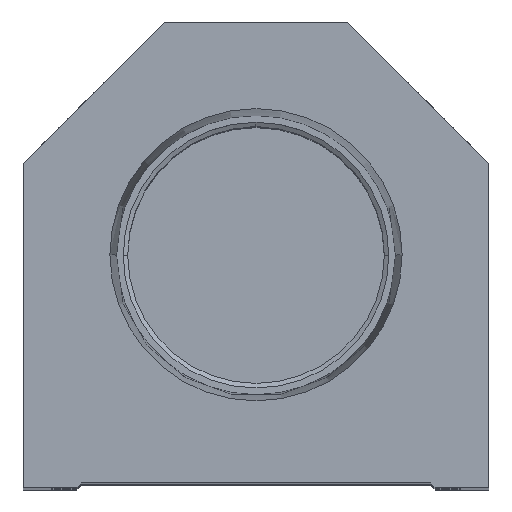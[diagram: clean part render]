
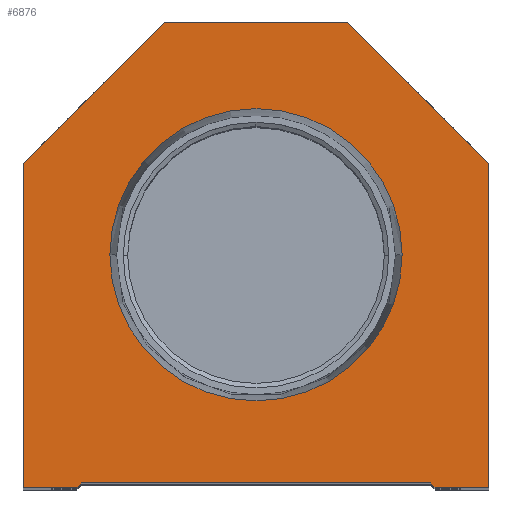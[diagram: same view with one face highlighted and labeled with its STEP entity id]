
A CAD part, top view. The second image highlights one B-rep face of the part: STEP entity #6876.
In plain terms, the highlighted planar face has unit normal (0, 0, 1).
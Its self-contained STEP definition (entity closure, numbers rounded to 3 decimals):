
#495 = CARTESIAN_POINT ( 'NONE',  ( 0., 25.4, 0. ) ) ;
#610 = VERTEX_POINT ( 'NONE', #6217 ) ;
#673 = EDGE_CURVE ( 'NONE', #5809, #9085, #1294, .T. ) ;
#707 = DIRECTION ( 'NONE',  ( 0., 0., 1. ) ) ;
#810 = CARTESIAN_POINT ( 'NONE',  ( 25.4, 35.4, 0. ) ) ;
#877 = VECTOR ( 'NONE', #12538, 1000. ) ;
#931 = ORIENTED_EDGE ( 'NONE', *, *, #8647, .T. ) ;
#1294 = LINE ( 'NONE', #2803, #4337 ) ;
#1538 = CARTESIAN_POINT ( 'NONE',  ( -9.775, 9.775, 0. ) ) ;
#1699 = VECTOR ( 'NONE', #2983, 1000. ) ;
#1831 = CARTESIAN_POINT ( 'NONE',  ( -15.947, 25.4, 0. ) ) ;
#1900 = EDGE_CURVE ( 'NONE', #7041, #7922, #16558, .T. ) ;
#2033 = VERTEX_POINT ( 'NONE', #9193 ) ;
#2061 = VECTOR ( 'NONE', #16231, 1000. ) ;
#2235 = DIRECTION ( 'NONE',  ( -0.707, -0.707, 0. ) ) ;
#2477 = CARTESIAN_POINT ( 'NONE',  ( 10., 50.8, 0. ) ) ;
#2612 = ORIENTED_EDGE ( 'NONE', *, *, #6174, .T. ) ;
#2741 = VERTEX_POINT ( 'NONE', #13411 ) ;
#2803 = CARTESIAN_POINT ( 'NONE',  ( -25.4, 0., 0. ) ) ;
#2983 = DIRECTION ( 'NONE',  ( 1., 0., 0. ) ) ;
#3158 = EDGE_LOOP ( 'NONE', ( #2612, #10329, #15883, #12829, #931, #10503, #9808, #13256, #15090, #12079 ) ) ;
#3340 = EDGE_CURVE ( 'NONE', #2741, #7761, #18705, .T. ) ;
#3825 = CARTESIAN_POINT ( 'NONE',  ( 15.947, 25.4, 0. ) ) ;
#4337 = VECTOR ( 'NONE', #5801, 1000. ) ;
#4660 = ORIENTED_EDGE ( 'NONE', *, *, #14780, .F. ) ;
#4679 = PLANE ( 'NONE',  #9253 ) ;
#4839 = LINE ( 'NONE', #1538, #14746 ) ;
#5009 = LINE ( 'NONE', #7926, #2061 ) ;
#5801 = DIRECTION ( 'NONE',  ( 0., -1., 0. ) ) ;
#5809 = VERTEX_POINT ( 'NONE', #8284 ) ;
#5822 = DIRECTION ( 'NONE',  ( 0., 1., 0. ) ) ;
#6174 = EDGE_CURVE ( 'NONE', #9085, #2033, #11333, .T. ) ;
#6201 = EDGE_CURVE ( 'NONE', #9581, #13360, #5009, .T. ) ;
#6217 = CARTESIAN_POINT ( 'NONE',  ( 25.4, 35.4, 0. ) ) ;
#6437 = DIRECTION ( 'NONE',  ( 0.707, -0.707, 0. ) ) ;
#6876 = ADVANCED_FACE ( 'NONE', ( #17699, #21073 ), #4679, .T. ) ;
#6877 = DIRECTION ( 'NONE',  ( 0., 0., 1. ) ) ;
#7041 = VERTEX_POINT ( 'NONE', #3825 ) ;
#7761 = VERTEX_POINT ( 'NONE', #10535 ) ;
#7922 = VERTEX_POINT ( 'NONE', #1831 ) ;
#7926 = CARTESIAN_POINT ( 'NONE',  ( -19.05, 0.5, 0. ) ) ;
#7930 = DIRECTION ( 'NONE',  ( 0., 0., 1. ) ) ;
#8089 = DIRECTION ( 'NONE',  ( 0.707, 0.707, 0. ) ) ;
#8168 = LINE ( 'NONE', #12870, #15259 ) ;
#8284 = CARTESIAN_POINT ( 'NONE',  ( -25.4, 35.4, 0. ) ) ;
#8647 = EDGE_CURVE ( 'NONE', #9256, #15874, #20400, .T. ) ;
#8779 = CARTESIAN_POINT ( 'NONE',  ( -25.4, 0., 0. ) ) ;
#9085 = VERTEX_POINT ( 'NONE', #8779 ) ;
#9193 = CARTESIAN_POINT ( 'NONE',  ( -19.55, 0., 0. ) ) ;
#9253 = AXIS2_PLACEMENT_3D ( 'NONE', #16236, #7930, #14427 ) ;
#9256 = VERTEX_POINT ( 'NONE', #10695 ) ;
#9502 = EDGE_LOOP ( 'NONE', ( #15404, #4660 ) ) ;
#9581 = VERTEX_POINT ( 'NONE', #20817 ) ;
#9726 = AXIS2_PLACEMENT_3D ( 'NONE', #13835, #6877, #20288 ) ;
#9808 = ORIENTED_EDGE ( 'NONE', *, *, #18213, .T. ) ;
#10329 = ORIENTED_EDGE ( 'NONE', *, *, #12346, .T. ) ;
#10370 = CARTESIAN_POINT ( 'NONE',  ( -25.4, 35.4, 0. ) ) ;
#10503 = ORIENTED_EDGE ( 'NONE', *, *, #12521, .T. ) ;
#10535 = CARTESIAN_POINT ( 'NONE',  ( -10., 50.8, 0. ) ) ;
#10695 = CARTESIAN_POINT ( 'NONE',  ( 19.55, 0., 0. ) ) ;
#10768 = DIRECTION ( 'NONE',  ( -0.707, 0.707, 0. ) ) ;
#11333 = LINE ( 'NONE', #17602, #1699 ) ;
#11969 = EDGE_CURVE ( 'NONE', #7761, #5809, #12085, .T. ) ;
#12079 = ORIENTED_EDGE ( 'NONE', *, *, #673, .T. ) ;
#12085 = LINE ( 'NONE', #10370, #16443 ) ;
#12148 = DIRECTION ( 'NONE',  ( 1., 0., 0. ) ) ;
#12346 = EDGE_CURVE ( 'NONE', #2033, #9581, #4839, .T. ) ;
#12521 = EDGE_CURVE ( 'NONE', #15874, #610, #18935, .T. ) ;
#12538 = DIRECTION ( 'NONE',  ( -1., 0., 0. ) ) ;
#12829 = ORIENTED_EDGE ( 'NONE', *, *, #17144, .T. ) ;
#12870 = CARTESIAN_POINT ( 'NONE',  ( 9.775, 9.775, 0. ) ) ;
#13256 = ORIENTED_EDGE ( 'NONE', *, *, #3340, .T. ) ;
#13360 = VERTEX_POINT ( 'NONE', #18910 ) ;
#13411 = CARTESIAN_POINT ( 'NONE',  ( 10., 50.8, 0. ) ) ;
#13573 = DIRECTION ( 'NONE',  ( 1., 0., 0. ) ) ;
#13835 = CARTESIAN_POINT ( 'NONE',  ( 0., 25.4, 0. ) ) ;
#14338 = AXIS2_PLACEMENT_3D ( 'NONE', #495, #707, #13573 ) ;
#14427 = DIRECTION ( 'NONE',  ( 1., 0., 0. ) ) ;
#14746 = VECTOR ( 'NONE', #8089, 1000. ) ;
#14780 = EDGE_CURVE ( 'NONE', #7922, #7041, #20758, .T. ) ;
#15090 = ORIENTED_EDGE ( 'NONE', *, *, #11969, .T. ) ;
#15259 = VECTOR ( 'NONE', #6437, 1000. ) ;
#15404 = ORIENTED_EDGE ( 'NONE', *, *, #1900, .F. ) ;
#15874 = VERTEX_POINT ( 'NONE', #17736 ) ;
#15883 = ORIENTED_EDGE ( 'NONE', *, *, #6201, .T. ) ;
#16231 = DIRECTION ( 'NONE',  ( 1., 0., 0. ) ) ;
#16236 = CARTESIAN_POINT ( 'NONE',  ( 0., 0., 0. ) ) ;
#16443 = VECTOR ( 'NONE', #2235, 1000. ) ;
#16558 = CIRCLE ( 'NONE', #9726, 15.947 ) ;
#16819 = VECTOR ( 'NONE', #5822, 1000. ) ;
#17044 = CARTESIAN_POINT ( 'NONE',  ( 25.4, 0., 0. ) ) ;
#17144 = EDGE_CURVE ( 'NONE', #13360, #9256, #8168, .T. ) ;
#17602 = CARTESIAN_POINT ( 'NONE',  ( -19.05, 0., 0. ) ) ;
#17699 = FACE_BOUND ( 'NONE', #9502, .T. ) ;
#17736 = CARTESIAN_POINT ( 'NONE',  ( 25.4, 0., 0. ) ) ;
#18213 = EDGE_CURVE ( 'NONE', #610, #2741, #18748, .T. ) ;
#18233 = VECTOR ( 'NONE', #12148, 1000. ) ;
#18705 = LINE ( 'NONE', #2477, #877 ) ;
#18748 = LINE ( 'NONE', #810, #20015 ) ;
#18910 = CARTESIAN_POINT ( 'NONE',  ( 19.05, 0.5, 0. ) ) ;
#18935 = LINE ( 'NONE', #17044, #16819 ) ;
#20015 = VECTOR ( 'NONE', #10768, 1000. ) ;
#20288 = DIRECTION ( 'NONE',  ( 1., 0., 0. ) ) ;
#20400 = LINE ( 'NONE', #20505, #18233 ) ;
#20505 = CARTESIAN_POINT ( 'NONE',  ( 19.05, 0., 0. ) ) ;
#20758 = CIRCLE ( 'NONE', #14338, 15.947 ) ;
#20817 = CARTESIAN_POINT ( 'NONE',  ( -19.05, 0.5, 0. ) ) ;
#21073 = FACE_OUTER_BOUND ( 'NONE', #3158, .T. ) ;
